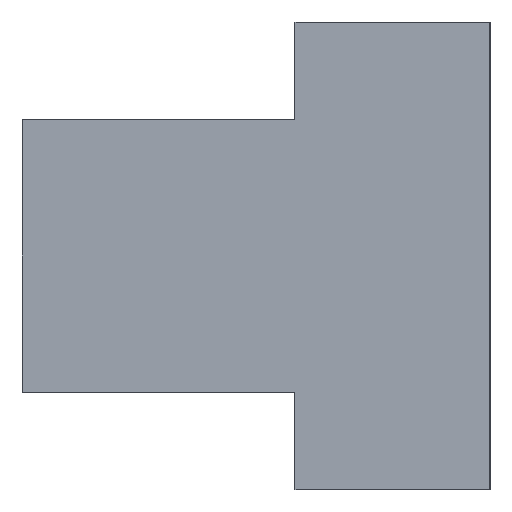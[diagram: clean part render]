
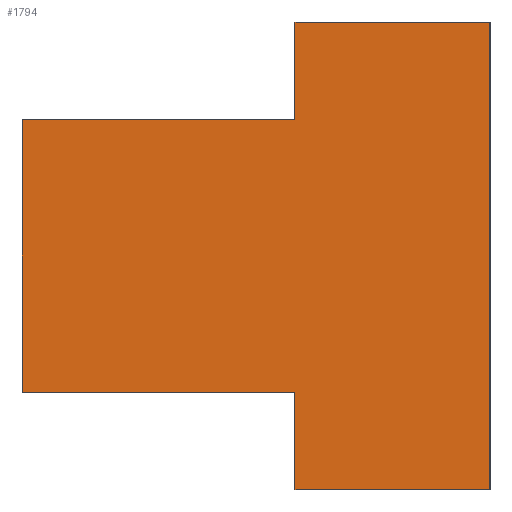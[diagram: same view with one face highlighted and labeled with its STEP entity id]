
A CAD part, left-side view. The second image highlights one B-rep face of the part: STEP entity #1794.
In plain terms, the highlighted planar face has unit normal (-1, 0, 0).
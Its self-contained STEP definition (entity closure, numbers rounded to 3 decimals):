
#57=CARTESIAN_POINT('Line Origine',(0.,0.,0.)) ;
#61=CARTESIAN_POINT('Vertex',(0.,0.,12.)) ;
#63=CARTESIAN_POINT('Vertex',(0.,0.,-12.)) ;
#1732=CARTESIAN_POINT('Axis2P3D Location',(0.,0.,-0.)) ;
#1737=CARTESIAN_POINT('Line Origine',(0.,10.,9.5)) ;
#1741=CARTESIAN_POINT('Vertex',(0.,10.,7.)) ;
#1743=CARTESIAN_POINT('Vertex',(0.,10.,12.)) ;
#1746=CARTESIAN_POINT('Line Origine',(0.,17.,7.)) ;
#1750=CARTESIAN_POINT('Vertex',(0.,24.,7.)) ;
#1753=CARTESIAN_POINT('Line Origine',(0.,24.,0.)) ;
#1757=CARTESIAN_POINT('Vertex',(0.,24.,-7.)) ;
#1760=CARTESIAN_POINT('Line Origine',(0.,17.,-7.)) ;
#1764=CARTESIAN_POINT('Vertex',(0.,10.,-7.)) ;
#1767=CARTESIAN_POINT('Line Origine',(0.,10.,-9.5)) ;
#1771=CARTESIAN_POINT('Vertex',(0.,10.,-12.)) ;
#1774=CARTESIAN_POINT('Line Origine',(0.,5.,-12.)) ;
#1779=CARTESIAN_POINT('Line Origine',(0.,5.,12.)) ;
#58=DIRECTION('Vector Direction',(0.,0.,-1.)) ;
#1733=DIRECTION('Axis2P3D Direction',(1.,0.,-0.)) ;
#1734=DIRECTION('Axis2P3D XDirection',(-0.,0.,-1.)) ;
#1738=DIRECTION('Vector Direction',(0.,0.,1.)) ;
#1747=DIRECTION('Vector Direction',(0.,-1.,0.)) ;
#1754=DIRECTION('Vector Direction',(0.,0.,1.)) ;
#1761=DIRECTION('Vector Direction',(0.,1.,0.)) ;
#1768=DIRECTION('Vector Direction',(0.,0.,1.)) ;
#1775=DIRECTION('Vector Direction',(0.,1.,0.)) ;
#1780=DIRECTION('Vector Direction',(0.,-1.,0.)) ;
#1735=AXIS2_PLACEMENT_3D('Plane Axis2P3D',#1732,#1733,#1734) ;
#1785=ORIENTED_EDGE('',*,*,#1745,.F.) ;
#1786=ORIENTED_EDGE('',*,*,#1752,.F.) ;
#1787=ORIENTED_EDGE('',*,*,#1759,.F.) ;
#1788=ORIENTED_EDGE('',*,*,#1766,.F.) ;
#1789=ORIENTED_EDGE('',*,*,#1773,.F.) ;
#1790=ORIENTED_EDGE('',*,*,#1778,.F.) ;
#1791=ORIENTED_EDGE('',*,*,#65,.F.) ;
#1792=ORIENTED_EDGE('',*,*,#1783,.F.) ;
#59=VECTOR('Line Direction',#58,1.) ;
#1739=VECTOR('Line Direction',#1738,1.) ;
#1748=VECTOR('Line Direction',#1747,1.) ;
#1755=VECTOR('Line Direction',#1754,1.) ;
#1762=VECTOR('Line Direction',#1761,1.) ;
#1769=VECTOR('Line Direction',#1768,1.) ;
#1776=VECTOR('Line Direction',#1775,1.) ;
#1781=VECTOR('Line Direction',#1780,1.) ;
#1794=ADVANCED_FACE('CF-GT-14-500',(#1793),#1736,.F.) ;
#65=EDGE_CURVE('',#62,#64,#60,.T.) ;
#1745=EDGE_CURVE('',#1742,#1744,#1740,.T.) ;
#1752=EDGE_CURVE('',#1751,#1742,#1749,.T.) ;
#1759=EDGE_CURVE('',#1758,#1751,#1756,.T.) ;
#1766=EDGE_CURVE('',#1765,#1758,#1763,.T.) ;
#1773=EDGE_CURVE('',#1772,#1765,#1770,.T.) ;
#1778=EDGE_CURVE('',#64,#1772,#1777,.T.) ;
#1783=EDGE_CURVE('',#1744,#62,#1782,.T.) ;
#1784=EDGE_LOOP('',(#1785,#1786,#1787,#1788,#1789,#1790,#1791,#1792)) ;
#1793=FACE_OUTER_BOUND('',#1784,.T.) ;
#60=LINE('Line',#57,#59) ;
#1740=LINE('Line',#1737,#1739) ;
#1749=LINE('Line',#1746,#1748) ;
#1756=LINE('Line',#1753,#1755) ;
#1763=LINE('Line',#1760,#1762) ;
#1770=LINE('Line',#1767,#1769) ;
#1777=LINE('Line',#1774,#1776) ;
#1782=LINE('Line',#1779,#1781) ;
#1736=PLANE('Plane',#1735) ;
#62=VERTEX_POINT('',#61) ;
#64=VERTEX_POINT('',#63) ;
#1742=VERTEX_POINT('',#1741) ;
#1744=VERTEX_POINT('',#1743) ;
#1751=VERTEX_POINT('',#1750) ;
#1758=VERTEX_POINT('',#1757) ;
#1765=VERTEX_POINT('',#1764) ;
#1772=VERTEX_POINT('',#1771) ;
